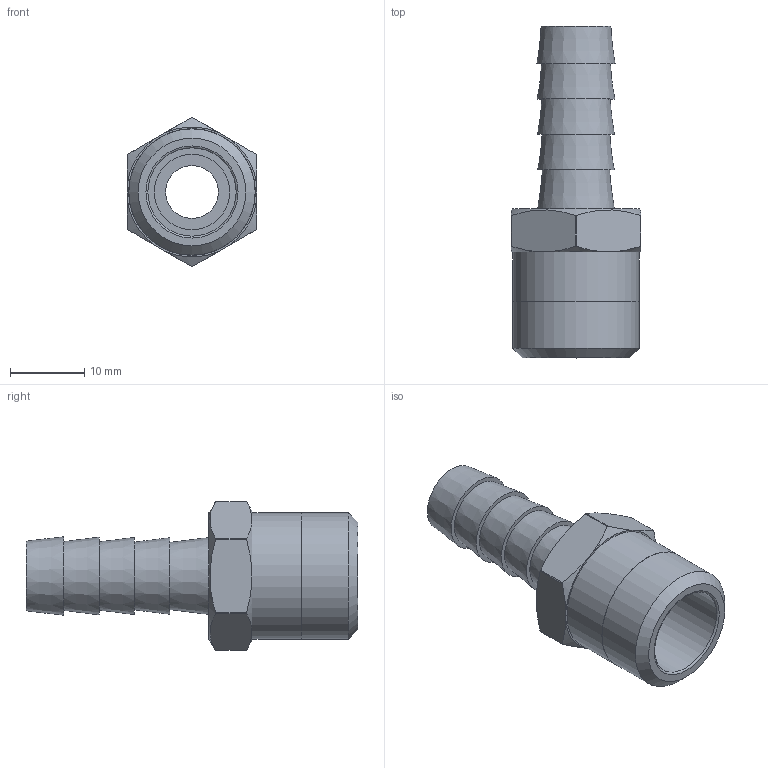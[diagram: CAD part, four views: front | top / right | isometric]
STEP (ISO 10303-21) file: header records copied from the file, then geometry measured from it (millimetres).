
FILE_DESCRIPTION(/* description */ (''),/* implementation_level */ '2;1');
FILE_NAME(/* name */ 'C:/Users/drich/Desktop/MB38-6 v1.step',/* time_stamp */ '2020-02-02T14:55:28-06:00',/* author */ (''),/* organization */ (''),/* preprocessor_version */ 'ST-DEVELOPER v18',/* originating_system */ 'Autodesk Translation Framework v8.12.0.6',/* authorisation */ '');
FILE_SCHEMA (('AUTOMOTIVE_DESIGN { 1 0 10303 214 3 1 1 }'));
Length unit declared in the file: inch
Products named in the file (2): MB38-6; 38 BARB ONLY
Assembly tree (1 placements, depth 2):
  MB38-6
    38 BARB ONLY
Bounding box: 17.45 x 44.7 x 20.07 mm (x, y, z)
Volume: 3557.5 mm3; surface area: 3586.2 mm2
Topology: 2 solids, 2 shells, 43 faces, 115 edges, 82 vertices
Faces by surface type: plane 16, cone 15, cylinder 11, torus 1
Full cylindrical faces by diameter (mm): 7.112 x1, 10.16 x1, 11.887 x1, 17.018 x1, 17.069 x1
Entity records: 1455 total; most frequent: CARTESIAN_POINT 279, DIRECTION 254, ORIENTED_EDGE 230, EDGE_CURVE 115, AXIS2_PLACEMENT_3D 111, VERTEX_POINT 82, CIRCLE 65, EDGE_LOOP 53
